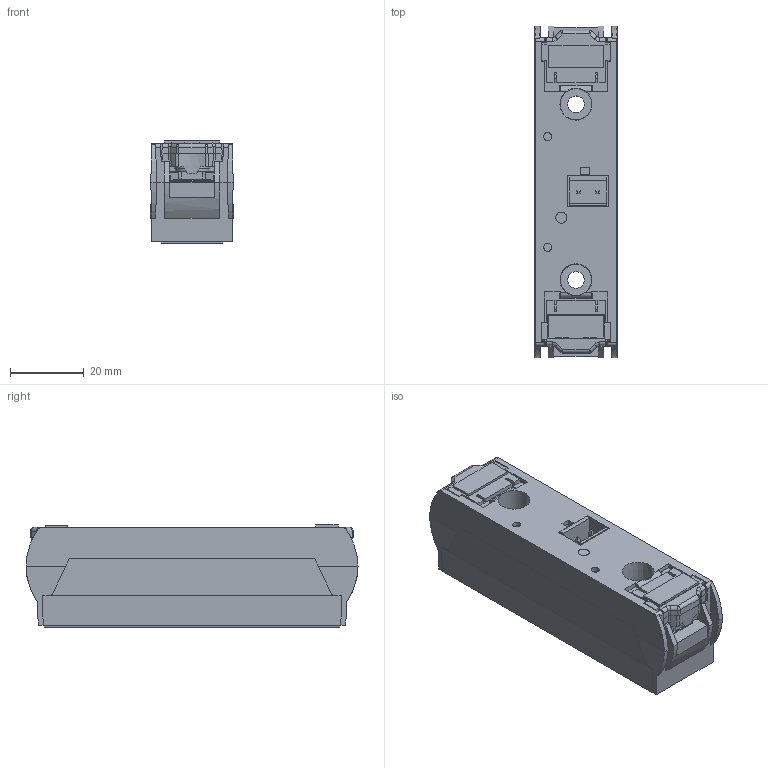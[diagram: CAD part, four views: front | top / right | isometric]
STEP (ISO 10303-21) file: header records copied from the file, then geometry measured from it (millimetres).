
FILE_DESCRIPTION((''),'2;1');
FILE_NAME('R:\Stock\3D pour clients\CELDUC references\2D3D 570 B.stp','2012-07-10T11:25:42',('Georges THOLLOT ','Tl : +33 (0)4 77 53 90 27','gthollot@celduc.com'),('Celduc r e l a i s','5, rue Ampre, BP 30004','42290 SORBIERS - France','Fax. : +33 (0)4 77 53 85 51','N siret 353 310 519 00015','ISO 9001 N QUAL/1993/1106b','www.celduc.com'),'Autodesk Inventor 2010','Autodesk Inventor 2010','');
FILE_SCHEMA(('CONFIG_CONTROL_DESIGN'));
Length unit declared in the file: millimetre
Products named in the file (1): SU
Bounding box: 22.3 x 90 x 27.66 mm (x, y, z)
Volume: 46155.9 mm3; surface area: 15498.9 mm2
Topology: 1 solids, 1 shells, 768 faces, 2076 edges, 1306 vertices
Faces by surface type: plane 459, bspline 166, cylinder 76, cone 51, torus 10, sphere 6
Full cylindrical faces by diameter (mm): 3 x1, 4.5 x1, 5 x2, 5.5 x1, 8.734 x2, 9.2 x2
Entity records: 26501 total; most frequent: CARTESIAN_POINT 7547, ORIENTED_EDGE 4002, DIRECTION 3335, EDGE_CURVE 2001, VECTOR 1509, LINE 1509, VERTEX_POINT 1284, AXIS2_PLACEMENT_3D 913
